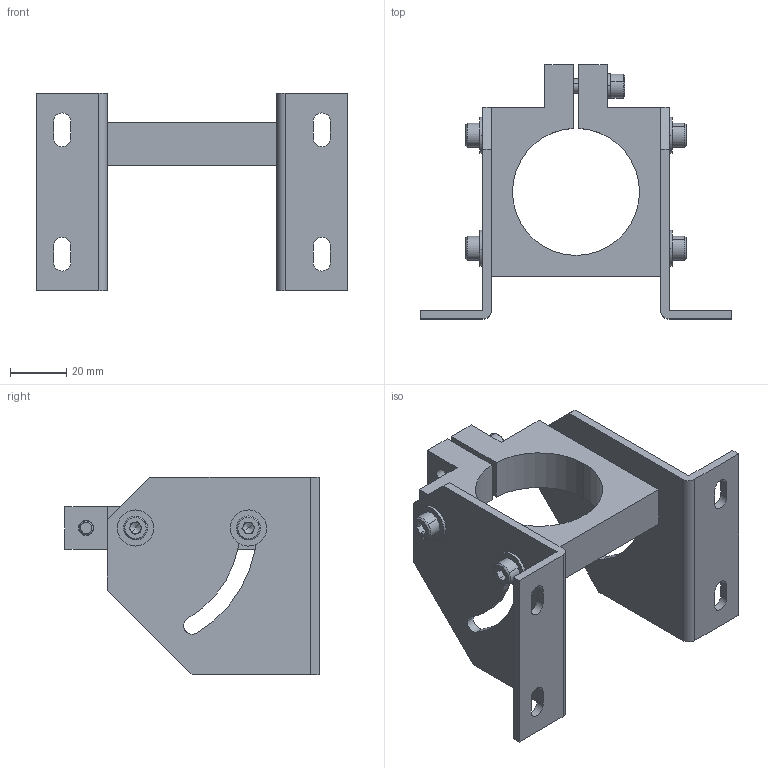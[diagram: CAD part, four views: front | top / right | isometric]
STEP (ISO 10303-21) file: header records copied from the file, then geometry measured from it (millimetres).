
FILE_DESCRIPTION (( 'STEP AP214' ), '1' );
FILE_NAME ('NR20ST.STEP', '2019-11-28T01:24:52', ( '微软用户' ), ( '微软中国' ), 'SwSTEP 2.0', 'SolidWorks 2016', '' );
FILE_SCHEMA (( 'AUTOMOTIVE_DESIGN' ));
Length unit declared in the file: millimetre
Products named in the file (1): NR20ST
Bounding box: 110 x 90 x 70 mm (x, y, z)
Volume: 70689.9 mm3; surface area: 41816.4 mm2
Topology: 13 solids, 13 shells, 240 faces, 555 edges, 345 vertices
Faces by surface type: plane 130, cylinder 58, bspline 52
Entity records: 9623 total; most frequent: CARTESIAN_POINT 1777, ORIENTED_EDGE 1090, DIRECTION 945, EDGE_CURVE 545, VERTEX_POINT 345, VECTOR 335, LINE 335, AXIS2_PLACEMENT_3D 305
